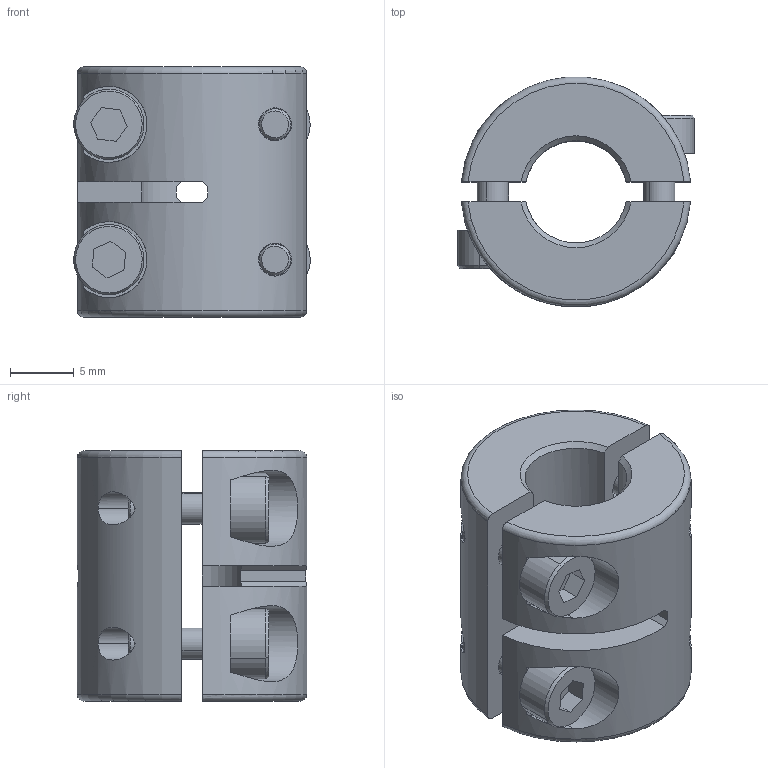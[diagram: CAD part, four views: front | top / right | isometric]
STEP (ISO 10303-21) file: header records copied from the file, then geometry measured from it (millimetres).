
FILE_DESCRIPTION (( 'STEP AP203' ), '1' );
FILE_NAME ('Ruland_MWSP-8-F.step', '2017-08-23T16:40:45', ( '' ), ( '' ), 'SwSTEP 2.0', 'SolidWorks 2017', '' );
FILE_SCHEMA (( 'CONFIG_CONTROL_DESIGN' ));
Length unit declared in the file: inch
Products named in the file (4): MWSP Assembled_MWSP-8-F; MWSP Dbl Wide Collars top and bottom_MWSP-8; Ruland_MWSP-8-F; Metric Socket Head Cap Screws 1_CFM3_8
Assembly tree (7 placements, depth 3):
  Ruland_MWSP-8-F
    MWSP Assembled_MWSP-8-F
      MWSP Dbl Wide Collars top and bottom_MWSP-8  x2
    Metric Socket Head Cap Screws 1_CFM3_8  x4
Bounding box: 18.5 x 17.96 x 19.59 mm (x, y, z)
Volume: 3406.4 mm3; surface area: 3333.9 mm2
Topology: 6 solids, 6 shells, 136 faces, 320 edges, 208 vertices
Faces by surface type: plane 64, cylinder 48, cone 20, torus 4
Entity records: 2212 total; most frequent: CARTESIAN_POINT 477, DIRECTION 264, ORIENTED_EDGE 244, EDGE_CURVE 122, AXIS2_PLACEMENT_3D 103, VERTEX_POINT 80, EDGE_LOOP 62, VECTOR 58
